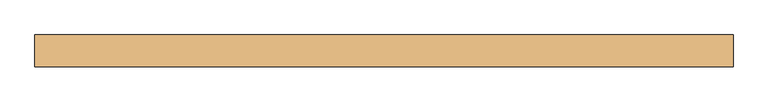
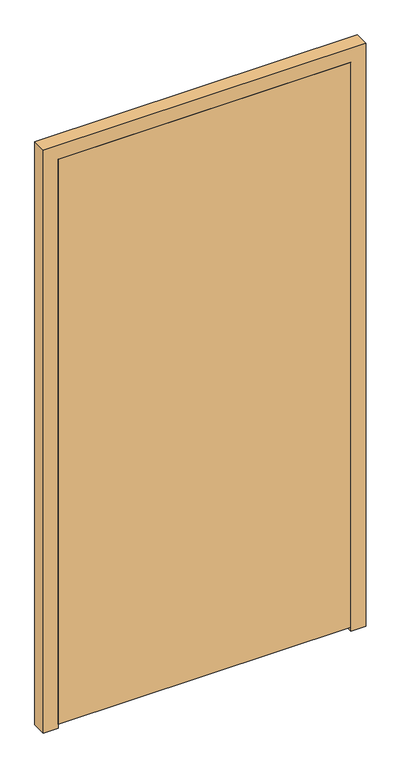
"""IFC4 building model written with IfcOpenShell, lengths in millimetres: door geometry, Dr_Дверь_v2.1 : ДВСТД Оп Ос 21-11 EIS60."""

from ifc_helpers import new_model, si_unit, frame, origin, place, context, project, spatial, polyline, outline, extrude, source, transform, mapped, element, save


def door_fcd13b85(model_context):
    return source(origin(), model_context, "Body", "SweptSolid", [
        extrude(outline(polyline([(0.0, -425.0), (0.0, -375.0), (2050.0, -375.0), (2050.0, 625.0), (0.0, 625.0), (0.0, 675.0), (2100.0, 675.0), (2100.0, -425.0), (0.0, -425.0)])), frame((0.0, 40.0, 0.0), z_axis=(0.0, 1.0, 0.0), x_axis=(0.0, 0.0, 1.0)), (0.0, 0.0, 1.0), 50.0),
        extrude(outline(polyline([(-375.0, 70.0), (625.0, 70.0), (625.0, 40.0), (-375.0, 40.0), (-375.0, 70.0)])), frame((0.0, 0.0, 14.0), z_axis=(0.0, 0.0, 1.0), x_axis=(1.0, 0.0, 0.0)), (0.0, 0.0, 1.0), 2036.0),
    ])


if __name__ == "__main__":
    model = new_model("IFC4")
    model_context = context("Model", 3, world=origin())
    ifc_project = project(units=[si_unit("LENGTHUNIT", "METRE", prefix="MILLI")], contexts=[model_context])
    site = spatial("IfcSite", under=ifc_project)
    building = spatial("IfcBuilding", under=site)
    placement = place(None, origin())
    door_shape = door_fcd13b85(model_context)
    element("IfcDoor", 1, ObjectType="Dr_Дверь_v2.1 : ДВСТД Оп Ос 21-11 EIS60", at=placement, inside=building, context=model_context, shape_type="MappedRepresentation", body=[
        mapped(door_shape, transform((0.0, 0.0, 0.0), x_axis=(1.0, 0.0, 0.0), y_axis=(0.0, 1.0, 0.0), z_axis=(0.0, 0.0, 1.0))),
    ])
    save(model, "model.ifc")
